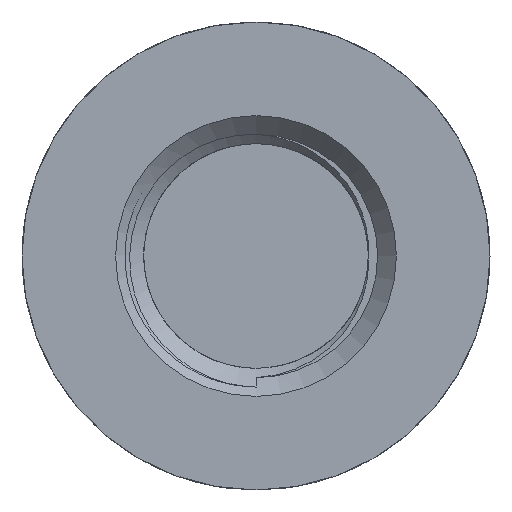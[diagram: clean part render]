
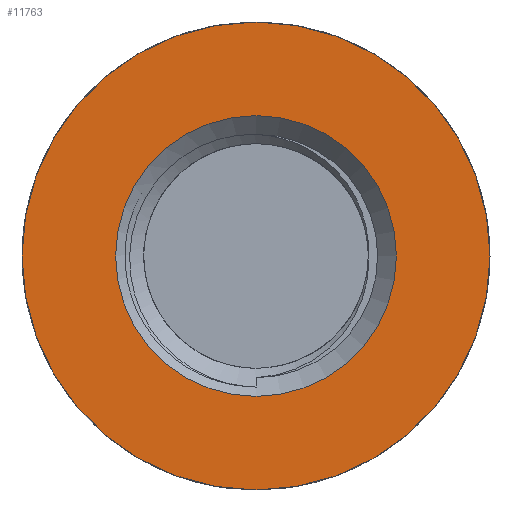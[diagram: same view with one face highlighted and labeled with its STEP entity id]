
A CAD part, left-side view. The second image highlights one B-rep face of the part: STEP entity #11763.
In plain terms, the highlighted planar face has unit normal (-1, 0, 0).
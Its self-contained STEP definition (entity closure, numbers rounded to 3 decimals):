
#11112=CARTESIAN_POINT('',(-160.,-0.,-12.5));
#11113=VERTEX_POINT('',#11112);
#11715=CARTESIAN_POINT('',(-160.,-0.,12.5));
#11716=VERTEX_POINT('',#11715);
#11717=CARTESIAN_POINT('',(-160.,-0.,0.));
#11718=DIRECTION('',(1.,0.,-0.));
#11719=DIRECTION('',(0.,0.,1.));
#11720=AXIS2_PLACEMENT_3D('',#11717,#11718,#11719);
#11721=CIRCLE('',#11720,12.5);
#11722=EDGE_CURVE('',#11113,#11716,#11721,.T.);
#11724=CARTESIAN_POINT('',(-160.,-0.,0.));
#11725=DIRECTION('',(1.,0.,-0.));
#11726=DIRECTION('',(0.,0.,1.));
#11727=AXIS2_PLACEMENT_3D('',#11724,#11725,#11726);
#11728=CIRCLE('',#11727,12.5);
#11729=EDGE_CURVE('',#11716,#11113,#11728,.T.);
#11734=CARTESIAN_POINT('',(-160.,-0.,0.));
#11735=DIRECTION('',(1.,0.,0.));
#11736=DIRECTION('',(-0.,1.,0.));
#11737=AXIS2_PLACEMENT_3D('',#11734,#11735,#11736);
#11738=PLANE('',#11737);
#11739=CARTESIAN_POINT('',(-160.,-0.,-7.5));
#11740=VERTEX_POINT('',#11739);
#11741=CARTESIAN_POINT('',(-160.,-0.,7.5));
#11742=VERTEX_POINT('',#11741);
#11743=CARTESIAN_POINT('',(-160.,-0.,0.));
#11744=DIRECTION('',(-1.,-0.,0.));
#11745=DIRECTION('',(0.,0.,1.));
#11746=AXIS2_PLACEMENT_3D('',#11743,#11744,#11745);
#11747=CIRCLE('',#11746,7.5);
#11748=EDGE_CURVE('',#11740,#11742,#11747,.T.);
#11749=ORIENTED_EDGE('',*,*,#11748,.F.);
#11750=CARTESIAN_POINT('',(-160.,-0.,0.));
#11751=DIRECTION('',(-1.,-0.,0.));
#11752=DIRECTION('',(0.,0.,1.));
#11753=AXIS2_PLACEMENT_3D('',#11750,#11751,#11752);
#11754=CIRCLE('',#11753,7.5);
#11755=EDGE_CURVE('',#11742,#11740,#11754,.T.);
#11756=ORIENTED_EDGE('',*,*,#11755,.F.);
#11757=EDGE_LOOP('',(#11749,#11756));
#11758=FACE_BOUND('',#11757,.T.);
#11759=ORIENTED_EDGE('',*,*,#11722,.F.);
#11760=ORIENTED_EDGE('',*,*,#11729,.F.);
#11761=EDGE_LOOP('',(#11759,#11760));
#11762=FACE_BOUND('',#11761,.T.);
#11763=ADVANCED_FACE('',(#11758,#11762),#11738,.F.);
